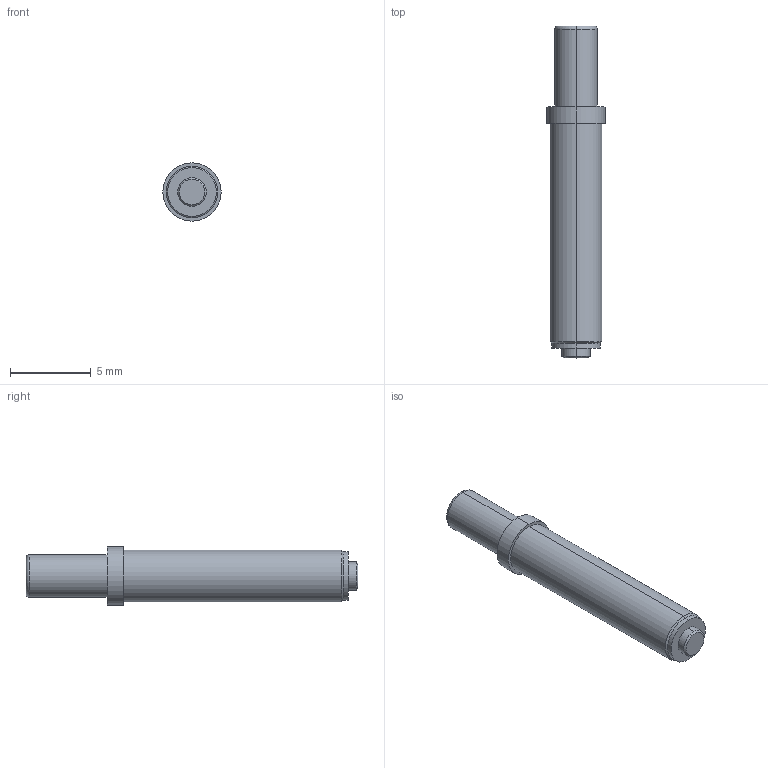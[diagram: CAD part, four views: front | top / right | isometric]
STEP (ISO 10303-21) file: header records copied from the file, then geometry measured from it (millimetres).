
FILE_DESCRIPTION((''),'2;1');
FILE_NAME('PRT0009','2023-05-26T15:46:35',('USER'),(''),'CREO PARAMETRIC BY PTC INC, 2020154','CREO PARAMETRIC BY PTC INC, 2020154','');
FILE_SCHEMA(('CONFIG_CONTROL_DESIGN'));
Length unit declared in the file: millimetre
Products named in the file (1): PRT0009
Bounding box: 3.6 x 20.5 x 3.6 mm (x, y, z)
Volume: 149.9 mm3; surface area: 214.8 mm2
Topology: 1 solids, 1 shells, 22 faces, 42 edges, 26 vertices
Faces by surface type: cylinder 10, plane 6, cone 4, torus 2
Entity records: 604 total; most frequent: DIRECTION 114, CARTESIAN_POINT 90, ORIENTED_EDGE 84, AXIS2_PLACEMENT_3D 50, EDGE_CURVE 42, CIRCLE 28, VERTEX_POINT 26, EDGE_LOOP 26
